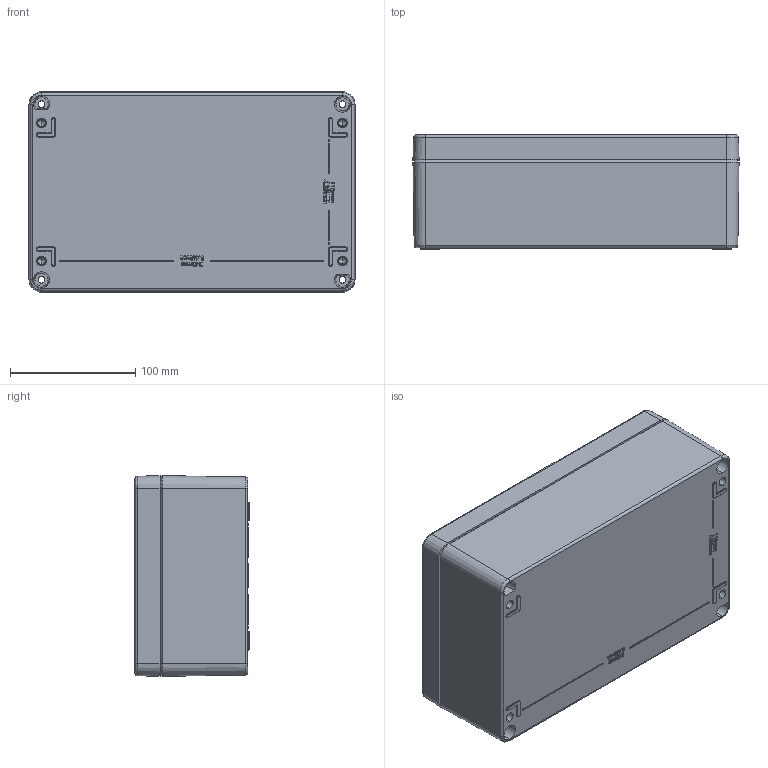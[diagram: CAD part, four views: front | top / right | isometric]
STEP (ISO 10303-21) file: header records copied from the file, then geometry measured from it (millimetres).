
FILE_DESCRIPTION (( 'STEP AP203' ), '1' );
FILE_NAME ('BB072.STEP', '2024-12-28T13:10:29', ( '' ), ( '' ), 'SwSTEP 2.0', 'SolidWorks 2019', '' );
FILE_SCHEMA (( 'CONFIG_CONTROL_DESIGN' ));
Length unit declared in the file: millimetre
Products named in the file (3): Lid 260X160X91; Base 260X160X91; BB072
Assembly tree (2 placements, depth 2):
  BB072
    Base 260X160X91
    Lid 260X160X91
Bounding box: 260 x 91 x 160 mm (x, y, z)
Volume: 769604.1 mm3; surface area: 325905 mm2
Topology: 5 solids, 5 shells, 1268 faces, 3218 edges, 2055 vertices
Faces by surface type: plane 578, bspline 283, cone 210, cylinder 197
Entity records: 51875 total; most frequent: CARTESIAN_POINT 22560, ORIENTED_EDGE 6400, DIRECTION 5317, EDGE_CURVE 3200, VERTEX_POINT 2055, VECTOR 1951, LINE 1951, AXIS2_PLACEMENT_3D 1683
